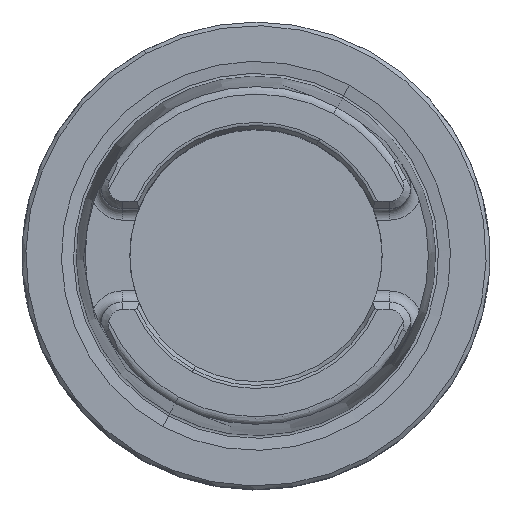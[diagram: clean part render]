
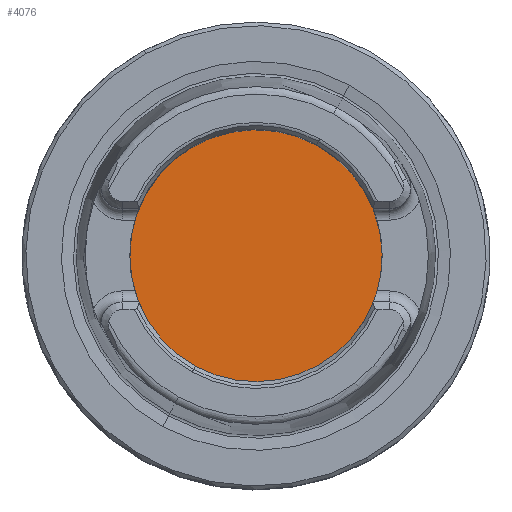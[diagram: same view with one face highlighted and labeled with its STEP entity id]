
A CAD part, top view. The second image highlights one B-rep face of the part: STEP entity #4076.
In plain terms, the highlighted planar face has unit normal (0, 0, 1).
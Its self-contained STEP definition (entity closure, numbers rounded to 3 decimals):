
#4056=AXIS2_PLACEMENT_3D('Plane Axis2P3D',#4053,#4054,#4055) ;
#4060=AXIS2_PLACEMENT_3D('Circle Axis2P3D',#4058,#4059,$) ;
#4069=AXIS2_PLACEMENT_3D('Circle Axis2P3D',#4067,#4068,$) ;
#4053=CARTESIAN_POINT('Axis2P3D Location',(0.,-15.75,-10.)) ;
#4058=CARTESIAN_POINT('Axis2P3D Location',(0.,0.,-10.)) ;
#4062=CARTESIAN_POINT('Vertex',(-8.15,-14.919,-10.)) ;
#4064=CARTESIAN_POINT('Vertex',(8.15,14.919,-10.)) ;
#4067=CARTESIAN_POINT('Axis2P3D Location',(0.,0.,-10.)) ;
#4054=DIRECTION('Axis2P3D Direction',(0.,0.,-1.)) ;
#4055=DIRECTION('Axis2P3D XDirection',(-1.,0.,0.)) ;
#4059=DIRECTION('Axis2P3D Direction',(0.,0.,-1.)) ;
#4068=DIRECTION('Axis2P3D Direction',(0.,0.,-1.)) ;
#4073=ORIENTED_EDGE('',*,*,#4066,.T.) ;
#4074=ORIENTED_EDGE('',*,*,#4071,.T.) ;
#4076=ADVANCED_FACE('NO_CUT',(#4075),#4057,.F.) ;
#4061=CIRCLE('generated circle',#4060,17.) ;
#4070=CIRCLE('generated circle',#4069,17.) ;
#4066=EDGE_CURVE('',#4063,#4065,#4061,.F.) ;
#4071=EDGE_CURVE('',#4065,#4063,#4070,.F.) ;
#4072=EDGE_LOOP('',(#4073,#4074)) ;
#4075=FACE_OUTER_BOUND('',#4072,.T.) ;
#4057=PLANE('',#4056) ;
#4063=VERTEX_POINT('',#4062) ;
#4065=VERTEX_POINT('',#4064) ;
